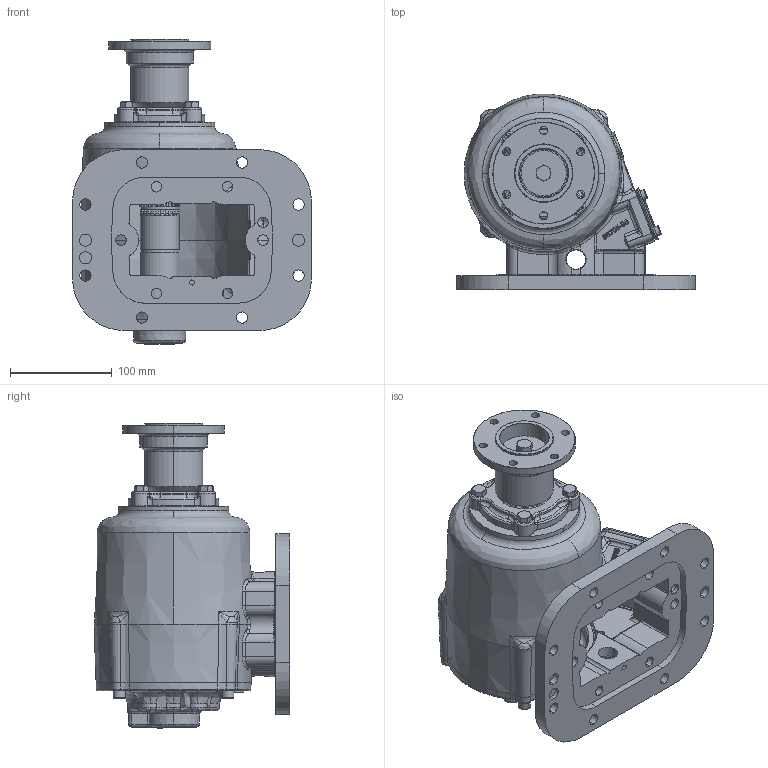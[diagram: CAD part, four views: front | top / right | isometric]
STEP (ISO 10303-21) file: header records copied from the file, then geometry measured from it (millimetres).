
FILE_DESCRIPTION (( 'STEP AP203' ), '1' );
FILE_NAME ('CS8S-XXXXX-E32X.STEP', '2023-05-03T18:15:11', ( '' ), ( '' ), 'SwSTEP 2.0', 'SolidWorks 2021', '' );
FILE_SCHEMA (( 'CONFIG_CONTROL_DESIGN' ));
Length unit declared in the file: inch
Products named in the file (14): 21T20092; 06T37372_06T37372; CS8S-XXXXX-E32X; 16T41119; 15T36717; 15T41683; 19T41118; 19T35237; 19T38266; 14T37378; 19T41756; 15TA5220_Config1; 11T37790; 01t37075a
Assembly tree (22 placements, depth 3):
  CS8S-XXXXX-E32X
    01t37075a
    15T36717
    16T41119
    19T41118  x4
    19T35237  x4
    15TA5220_Config1
      15T41683
      11T37790
    19T41756  x4
    19T38266
    21T20092
    06T37372_06T37372
    14T37378
Bounding box: 234.7 x 192.11 x 299.9 mm (x, y, z)
Volume: 1812892.6 mm3; surface area: 486727.8 mm2
Topology: 21 solids, 21 shells, 2921 faces, 7533 edges, 4723 vertices
Faces by surface type: bspline 1014, plane 764, cylinder 631, cone 380, torus 132
Entity records: 229001 total; most frequent: CARTESIAN_POINT 169683, ORIENTED_EDGE 13918, DIRECTION 8810, EDGE_CURVE 6959, VERTEX_POINT 4414, AXIS2_PLACEMENT_3D 3312, B_SPLINE_CURVE_WITH_KNOTS 3102, EDGE_LOOP 2933
